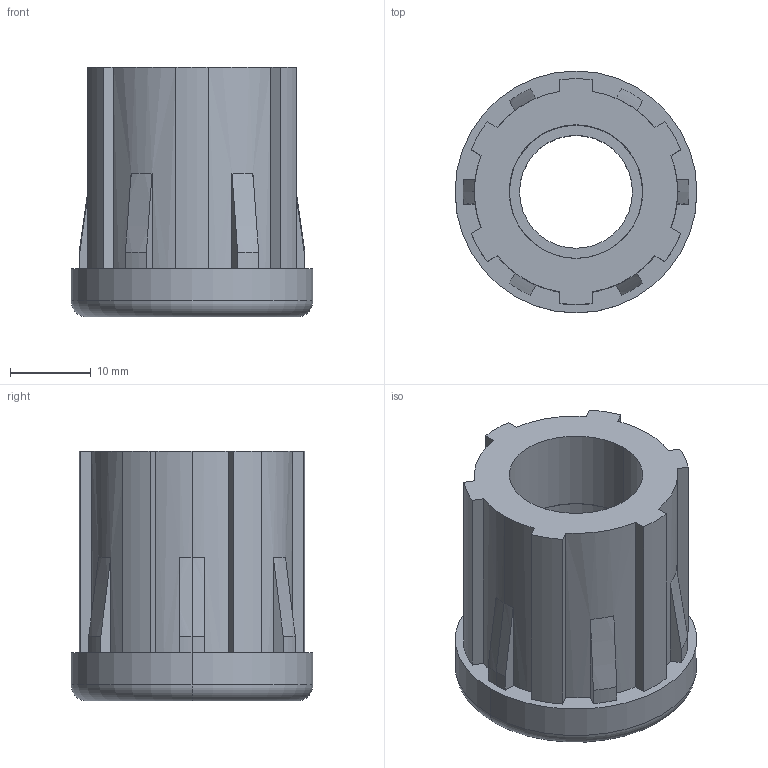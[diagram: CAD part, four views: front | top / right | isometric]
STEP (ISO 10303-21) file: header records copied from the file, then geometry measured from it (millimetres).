
FILE_DESCRIPTION(('STEP AP214'),'1');
FILE_NAME('42006430114.stp','2016-01-21T14:00:26',(' '),(' '),'Spatial InterOp 3D',' ',' ');
FILE_SCHEMA(('automotive_design'));
Length unit declared in the file: millimetre
Products named in the file (4): 64_80857; Component1; 42006430114; Disegno1
Assembly tree (3 placements, depth 3):
  42006430114
    64_80857
      Component1
    Disegno1
Bounding box: 30 x 30 x 31 mm (x, y, z)
Volume: 11785.3 mm3; surface area: 7486.6 mm2
Topology: 2 solids, 2 shells, 93 faces, 234 edges, 148 vertices
Faces by surface type: cylinder 38, plane 31, cone 16, torus 8
Entity records: 3679 total; most frequent: DIRECTION 550, CARTESIAN_POINT 480, ORIENTED_EDGE 468, EDGE_CURVE 234, AXIS2_PLACEMENT_3D 218, VERTEX_POINT 148, CIRCLE 120, LINE 114
